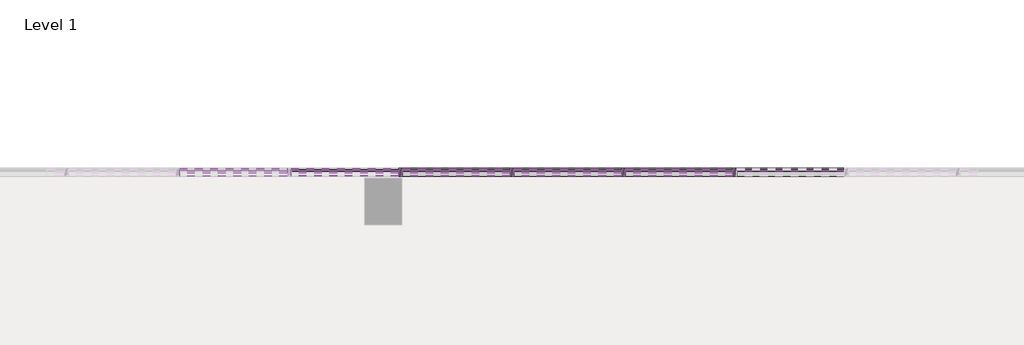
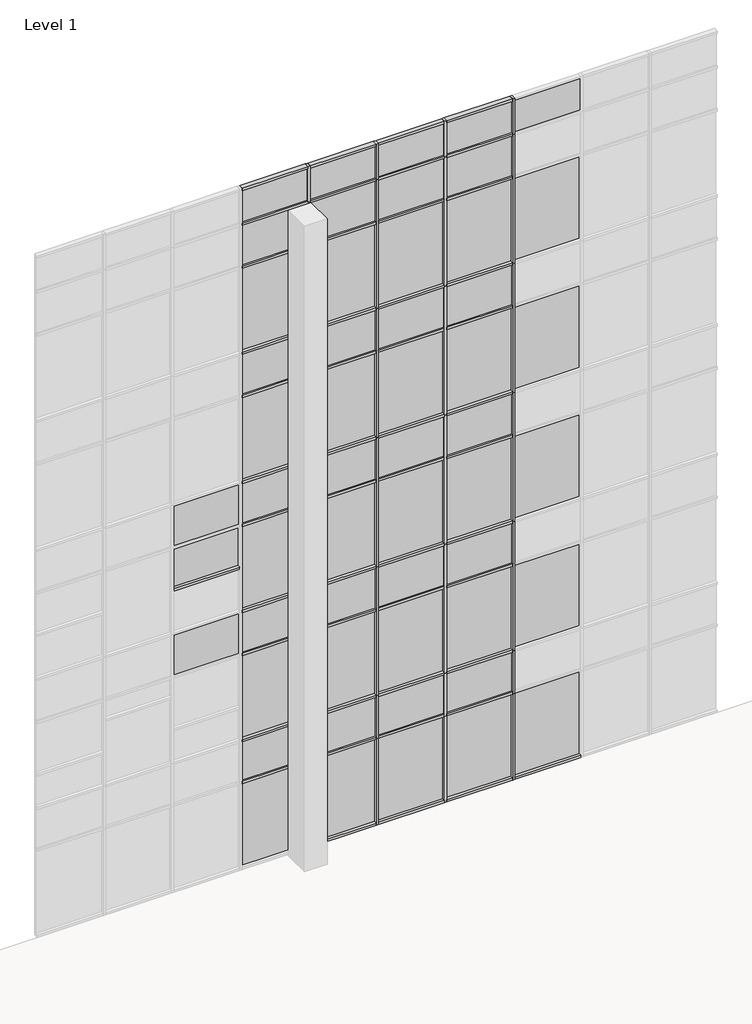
# One storey, part 12 of 23: 77 members, 53 plates.
"""IFC4 building model written with IfcOpenShell, lengths in millimetres."""

from ifc_helpers import new_model, si_unit, origin, place, context, project, spatial, transform, mapped, element, save
from components import member_2b49869a, member_f92b8aa2, member_810865a4, member_f0fea5a5, member_6d5c3e5e, member_9764dd38, system_panel_glazed_14c75400, system_panel_glazed_f9823347, system_panel_solid_5dfe6f83, system_panel_solid_e25e2004, system_panel_solid_b7551183

model = new_model("IFC4")

# Units and contexts
model_context = context("Model", 3, world=origin())
ifc_project = project(units=[si_unit("LENGTHUNIT", "METRE", prefix="MILLI")], contexts=[model_context])

# Site, building, storey
site = spatial("IfcSite", under=ifc_project)
building = spatial("IfcBuilding", under=site)
storey = spatial("IfcBuildingStorey", under=building, Name="Level 1", Elevation=0.0)

# Members
placement = place(None, origin())
member_shape = member_2b49869a(model_context)
element("IfcMember", 1, ObjectType="Rectangular Mullion : 2.5\" x 5\" rectangular", at=placement, inside=storey, context=model_context, shape_type="MappedRepresentation", body=[
    mapped(member_shape, transform((-50727.8373649, 10017.7896508, 2438.4), x_axis=(1.0, 0.0, 0.0), y_axis=(0.0, -1.0, 0.0), z_axis=(0.0, 0.0, -1.0))),
])
element("IfcMember", 2, ObjectType="Rectangular Mullion : 2.5\" x 5\" rectangular", at=placement, inside=storey, context=model_context, shape_type="MappedRepresentation", body=[
    mapped(member_shape, transform((-52556.6373649, 10017.7896508, 2438.4), x_axis=(1.0, 0.0, 0.0), y_axis=(0.0, -1.0, 0.0), z_axis=(0.0, 0.0, -1.0))),
])
element("IfcMember", 3, ObjectType="Rectangular Mullion : 2.5\" x 5\" rectangular", at=placement, inside=storey, context=model_context, shape_type="MappedRepresentation", body=[
    mapped(member_shape, transform((-54385.4373649, 10017.7896508, 2438.4), x_axis=(1.0, 0.0, 0.0), y_axis=(0.0, -1.0, 0.0), z_axis=(0.0, 0.0, -1.0))),
])
element("IfcMember", 4, ObjectType="Rectangular Mullion : 2.5\" x 5\" rectangular", at=placement, inside=storey, context=model_context, shape_type="MappedRepresentation", body=[
    mapped(member_shape, transform((-56214.2373649, 10017.7896508, 2438.4), x_axis=(1.0, 0.0, 0.0), y_axis=(0.0, -1.0, 0.0), z_axis=(0.0, 0.0, -1.0))),
])
member_2_shape = member_f92b8aa2(model_context)
element("IfcMember", 5, ObjectType="Rectangular Mullion : 2.5\" x 5\" rectangular", at=placement, inside=storey, context=model_context, shape_type="MappedRepresentation", body=[
    mapped(member_2_shape, transform((-50727.8373649, 10017.7896508, 18288.0), x_axis=(1.0, 0.0, 0.0), y_axis=(0.0, -1.0, 0.0), z_axis=(0.0, 0.0, -1.0))),
])
element("IfcMember", 6, ObjectType="Rectangular Mullion : 2.5\" x 5\" rectangular", at=placement, inside=storey, context=model_context, shape_type="MappedRepresentation", body=[
    mapped(member_2_shape, transform((-52556.6373649, 10017.7896508, 18288.0), x_axis=(1.0, 0.0, 0.0), y_axis=(0.0, -1.0, 0.0), z_axis=(0.0, 0.0, -1.0))),
])
element("IfcMember", 7, ObjectType="Rectangular Mullion : 2.5\" x 5\" rectangular", at=placement, inside=storey, context=model_context, shape_type="MappedRepresentation", body=[
    mapped(member_2_shape, transform((-54385.4373649, 10017.7896508, 18288.0), x_axis=(1.0, 0.0, 0.0), y_axis=(0.0, -1.0, 0.0), z_axis=(0.0, 0.0, -1.0))),
])
element("IfcMember", 8, ObjectType="Rectangular Mullion : 2.5\" x 5\" rectangular", at=placement, inside=storey, context=model_context, shape_type="MappedRepresentation", body=[
    mapped(member_2_shape, transform((-56214.2373649, 10017.7896508, 18288.0), x_axis=(1.0, 0.0, 0.0), y_axis=(0.0, -1.0, 0.0), z_axis=(0.0, 0.0, -1.0))),
])
member_3_shape = member_810865a4(model_context)
element("IfcMember", 9, ObjectType="Rectangular Mullion : 2.5\" x 5\" rectangular", at=placement, inside=storey, context=model_context, shape_type="MappedRepresentation", body=[
    mapped(member_3_shape, transform((-50727.8373649, 10017.7896508, 14630.4), x_axis=(1.0, 0.0, 0.0), y_axis=(0.0, -1.0, 0.0), z_axis=(0.0, 0.0, -1.0))),
])
element("IfcMember", 10, ObjectType="Rectangular Mullion : 2.5\" x 5\" rectangular", at=placement, inside=storey, context=model_context, shape_type="MappedRepresentation", body=[
    mapped(member_3_shape, transform((-50727.8373649, 10017.7896508, 10972.8), x_axis=(1.0, 0.0, 0.0), y_axis=(0.0, -1.0, 0.0), z_axis=(0.0, 0.0, -1.0))),
])
element("IfcMember", 11, ObjectType="Rectangular Mullion : 2.5\" x 5\" rectangular", at=placement, inside=storey, context=model_context, shape_type="MappedRepresentation", body=[
    mapped(member_3_shape, transform((-50727.8373649, 10017.7896508, 7315.2), x_axis=(1.0, 0.0, 0.0), y_axis=(0.0, -1.0, 0.0), z_axis=(0.0, 0.0, -1.0))),
])
element("IfcMember", 12, ObjectType="Rectangular Mullion : 2.5\" x 5\" rectangular", at=placement, inside=storey, context=model_context, shape_type="MappedRepresentation", body=[
    mapped(member_3_shape, transform((-50727.8373649, 10017.7896508, 3657.6), x_axis=(1.0, 0.0, 0.0), y_axis=(0.0, -1.0, 0.0), z_axis=(0.0, 0.0, -1.0))),
])
element("IfcMember", 13, ObjectType="Rectangular Mullion : 2.5\" x 5\" rectangular", at=placement, inside=storey, context=model_context, shape_type="MappedRepresentation", body=[
    mapped(member_3_shape, transform((-52556.6373649, 10017.7896508, 14630.4), x_axis=(1.0, 0.0, 0.0), y_axis=(0.0, -1.0, 0.0), z_axis=(0.0, 0.0, -1.0))),
])
element("IfcMember", 14, ObjectType="Rectangular Mullion : 2.5\" x 5\" rectangular", at=placement, inside=storey, context=model_context, shape_type="MappedRepresentation", body=[
    mapped(member_3_shape, transform((-52556.6373649, 10017.7896508, 10972.8), x_axis=(1.0, 0.0, 0.0), y_axis=(0.0, -1.0, 0.0), z_axis=(0.0, 0.0, -1.0))),
])
element("IfcMember", 15, ObjectType="Rectangular Mullion : 2.5\" x 5\" rectangular", at=placement, inside=storey, context=model_context, shape_type="MappedRepresentation", body=[
    mapped(member_3_shape, transform((-52556.6373649, 10017.7896508, 7315.2), x_axis=(1.0, 0.0, 0.0), y_axis=(0.0, -1.0, 0.0), z_axis=(0.0, 0.0, -1.0))),
])
element("IfcMember", 16, ObjectType="Rectangular Mullion : 2.5\" x 5\" rectangular", at=placement, inside=storey, context=model_context, shape_type="MappedRepresentation", body=[
    mapped(member_3_shape, transform((-52556.6373649, 10017.7896508, 3657.6), x_axis=(1.0, 0.0, 0.0), y_axis=(0.0, -1.0, 0.0), z_axis=(0.0, 0.0, -1.0))),
])
element("IfcMember", 17, ObjectType="Rectangular Mullion : 2.5\" x 5\" rectangular", at=placement, inside=storey, context=model_context, shape_type="MappedRepresentation", body=[
    mapped(member_3_shape, transform((-54385.4373649, 10017.7896508, 14630.4), x_axis=(1.0, 0.0, 0.0), y_axis=(0.0, -1.0, 0.0), z_axis=(0.0, 0.0, -1.0))),
])
element("IfcMember", 18, ObjectType="Rectangular Mullion : 2.5\" x 5\" rectangular", at=placement, inside=storey, context=model_context, shape_type="MappedRepresentation", body=[
    mapped(member_3_shape, transform((-54385.4373649, 10017.7896508, 10972.8), x_axis=(1.0, 0.0, 0.0), y_axis=(0.0, -1.0, 0.0), z_axis=(0.0, 0.0, -1.0))),
])
element("IfcMember", 19, ObjectType="Rectangular Mullion : 2.5\" x 5\" rectangular", at=placement, inside=storey, context=model_context, shape_type="MappedRepresentation", body=[
    mapped(member_3_shape, transform((-54385.4373649, 10017.7896508, 7315.2), x_axis=(1.0, 0.0, 0.0), y_axis=(0.0, -1.0, 0.0), z_axis=(0.0, 0.0, -1.0))),
])
element("IfcMember", 20, ObjectType="Rectangular Mullion : 2.5\" x 5\" rectangular", at=placement, inside=storey, context=model_context, shape_type="MappedRepresentation", body=[
    mapped(member_3_shape, transform((-54385.4373649, 10017.7896508, 3657.6), x_axis=(1.0, 0.0, 0.0), y_axis=(0.0, -1.0, 0.0), z_axis=(0.0, 0.0, -1.0))),
])
element("IfcMember", 21, ObjectType="Rectangular Mullion : 2.5\" x 5\" rectangular", at=placement, inside=storey, context=model_context, shape_type="MappedRepresentation", body=[
    mapped(member_3_shape, transform((-56214.2373649, 10017.7896508, 14630.4), x_axis=(1.0, 0.0, 0.0), y_axis=(0.0, -1.0, 0.0), z_axis=(0.0, 0.0, -1.0))),
])
element("IfcMember", 22, ObjectType="Rectangular Mullion : 2.5\" x 5\" rectangular", at=placement, inside=storey, context=model_context, shape_type="MappedRepresentation", body=[
    mapped(member_3_shape, transform((-56214.2373649, 10017.7896508, 10972.8), x_axis=(1.0, 0.0, 0.0), y_axis=(0.0, -1.0, 0.0), z_axis=(0.0, 0.0, -1.0))),
])
element("IfcMember", 23, ObjectType="Rectangular Mullion : 2.5\" x 5\" rectangular", at=placement, inside=storey, context=model_context, shape_type="MappedRepresentation", body=[
    mapped(member_3_shape, transform((-56214.2373649, 10017.7896508, 7315.2), x_axis=(1.0, 0.0, 0.0), y_axis=(0.0, -1.0, 0.0), z_axis=(0.0, 0.0, -1.0))),
])
element("IfcMember", 24, ObjectType="Rectangular Mullion : 2.5\" x 5\" rectangular", at=placement, inside=storey, context=model_context, shape_type="MappedRepresentation", body=[
    mapped(member_3_shape, transform((-56214.2373649, 10017.7896508, 3657.6), x_axis=(1.0, 0.0, 0.0), y_axis=(0.0, -1.0, 0.0), z_axis=(0.0, 0.0, -1.0))),
])
member_4_shape = member_f0fea5a5(model_context)
element("IfcMember", 25, ObjectType="Rectangular Mullion : 2.5\" x 5\" rectangular", at=placement, inside=storey, context=model_context, shape_type="MappedRepresentation", body=[
    mapped(member_4_shape, transform((-50727.8373649, 10017.7896508, 0.0), x_axis=(1.0, 0.0, 0.0), y_axis=(0.0, -1.0, 0.0), z_axis=(0.0, 0.0, -1.0))),
])
element("IfcMember", 26, ObjectType="Rectangular Mullion : 2.5\" x 5\" rectangular", at=placement, inside=storey, context=model_context, shape_type="MappedRepresentation", body=[
    mapped(member_4_shape, transform((-56214.2373649, 10017.7896508, 0.0), x_axis=(1.0, 0.0, 0.0), y_axis=(0.0, -1.0, 0.0), z_axis=(0.0, 0.0, -1.0))),
])
element("IfcMember", 27, ObjectType="Rectangular Mullion : 2.5\" x 5\" rectangular", at=placement, inside=storey, context=model_context, shape_type="MappedRepresentation", body=[
    mapped(member_4_shape, transform((-52556.6373649, 10017.7896508, 0.0), x_axis=(1.0, 0.0, 0.0), y_axis=(0.0, -1.0, 0.0), z_axis=(0.0, 0.0, -1.0))),
])
element("IfcMember", 28, ObjectType="Rectangular Mullion : 2.5\" x 5\" rectangular", at=placement, inside=storey, context=model_context, shape_type="MappedRepresentation", body=[
    mapped(member_4_shape, transform((-54385.4373649, 10017.7896508, 0.0), x_axis=(1.0, 0.0, 0.0), y_axis=(0.0, -1.0, 0.0), z_axis=(0.0, 0.0, -1.0))),
])
member_5_shape = member_6d5c3e5e(model_context)
element("IfcMember", 29, ObjectType="Rectangular Mullion : 2.5\" x 5\" rectangular", at=placement, inside=storey, context=model_context, shape_type="MappedRepresentation", body=[
    mapped(member_5_shape, transform((-56245.9873649, 10017.7896508, 19304.0), x_axis=(0.0, 0.0, 1.0), y_axis=(0.0, -1.0, 0.0), z_axis=(1.0, 0.0, 0.0))),
])
element("IfcMember", 30, ObjectType="Rectangular Mullion : 2.5\" x 5\" rectangular", at=placement, inside=storey, context=model_context, shape_type="MappedRepresentation", body=[
    mapped(member_5_shape, transform((-50759.5873649, 10017.7896508, 19304.0), x_axis=(0.0, 0.0, 1.0), y_axis=(0.0, -1.0, 0.0), z_axis=(1.0, 0.0, 0.0))),
])
element("IfcMember", 31, ObjectType="Rectangular Mullion : 2.5\" x 5\" rectangular", at=placement, inside=storey, context=model_context, shape_type="MappedRepresentation", body=[
    mapped(member_5_shape, transform((-52588.3873649, 10017.7896508, 19304.0), x_axis=(0.0, 0.0, 1.0), y_axis=(0.0, -1.0, 0.0), z_axis=(1.0, 0.0, 0.0))),
])
element("IfcMember", 32, ObjectType="Rectangular Mullion : 2.5\" x 5\" rectangular", at=placement, inside=storey, context=model_context, shape_type="MappedRepresentation", body=[
    mapped(member_5_shape, transform((-54417.1873649, 10017.7896508, 19304.0), x_axis=(0.0, 0.0, 1.0), y_axis=(0.0, -1.0, 0.0), z_axis=(1.0, 0.0, 0.0))),
])
member_6_shape = member_9764dd38(model_context)
element("IfcMember", 33, ObjectType="Rectangular Mullion : 2.5\" x 5\" rectangular", at=placement, inside=storey, context=model_context, shape_type="MappedRepresentation", body=[
    mapped(member_6_shape, transform((-50759.5873649, 10017.7896508, 17068.8), x_axis=(0.0, 0.0, 1.0), y_axis=(0.0, -1.0, 0.0), z_axis=(1.0, 0.0, 0.0))),
])
element("IfcMember", 34, ObjectType="Rectangular Mullion : 2.5\" x 5\" rectangular", at=placement, inside=storey, context=model_context, shape_type="MappedRepresentation", body=[
    mapped(member_6_shape, transform((-52588.3873649, 10017.7896508, 17068.8), x_axis=(0.0, 0.0, 1.0), y_axis=(0.0, -1.0, 0.0), z_axis=(1.0, 0.0, 0.0))),
])
element("IfcMember", 35, ObjectType="Rectangular Mullion : 2.5\" x 5\" rectangular", at=placement, inside=storey, context=model_context, shape_type="MappedRepresentation", body=[
    mapped(member_6_shape, transform((-54417.1873649, 10017.7896508, 17068.8), x_axis=(0.0, 0.0, 1.0), y_axis=(0.0, -1.0, 0.0), z_axis=(1.0, 0.0, 0.0))),
])
element("IfcMember", 36, ObjectType="Rectangular Mullion : 2.5\" x 5\" rectangular", at=placement, inside=storey, context=model_context, shape_type="MappedRepresentation", body=[
    mapped(member_6_shape, transform((-56245.9873649, 10017.7896508, 17068.8), x_axis=(0.0, 0.0, 1.0), y_axis=(0.0, -1.0, 0.0), z_axis=(1.0, 0.0, 0.0))),
])
element("IfcMember", 37, ObjectType="Rectangular Mullion : 2.5\" x 5\" rectangular", at=placement, inside=storey, context=model_context, shape_type="MappedRepresentation", body=[
    mapped(member_6_shape, transform((-50759.5873649, 10017.7896508, 13411.2), x_axis=(0.0, 0.0, 1.0), y_axis=(0.0, -1.0, 0.0), z_axis=(1.0, 0.0, 0.0))),
])
element("IfcMember", 38, ObjectType="Rectangular Mullion : 2.5\" x 5\" rectangular", at=placement, inside=storey, context=model_context, shape_type="MappedRepresentation", body=[
    mapped(member_6_shape, transform((-52588.3873649, 10017.7896508, 13411.2), x_axis=(0.0, 0.0, 1.0), y_axis=(0.0, -1.0, 0.0), z_axis=(1.0, 0.0, 0.0))),
])
element("IfcMember", 39, ObjectType="Rectangular Mullion : 2.5\" x 5\" rectangular", at=placement, inside=storey, context=model_context, shape_type="MappedRepresentation", body=[
    mapped(member_6_shape, transform((-54417.1873649, 10017.7896508, 13411.2), x_axis=(0.0, 0.0, 1.0), y_axis=(0.0, -1.0, 0.0), z_axis=(1.0, 0.0, 0.0))),
])
element("IfcMember", 40, ObjectType="Rectangular Mullion : 2.5\" x 5\" rectangular", at=placement, inside=storey, context=model_context, shape_type="MappedRepresentation", body=[
    mapped(member_6_shape, transform((-56245.9873649, 10017.7896508, 13411.2), x_axis=(0.0, 0.0, 1.0), y_axis=(0.0, -1.0, 0.0), z_axis=(1.0, 0.0, 0.0))),
])
element("IfcMember", 41, ObjectType="Rectangular Mullion : 2.5\" x 5\" rectangular", at=placement, inside=storey, context=model_context, shape_type="MappedRepresentation", body=[
    mapped(member_6_shape, transform((-50759.5873649, 10017.7896508, 9753.6), x_axis=(0.0, 0.0, 1.0), y_axis=(0.0, -1.0, 0.0), z_axis=(1.0, 0.0, 0.0))),
])
element("IfcMember", 42, ObjectType="Rectangular Mullion : 2.5\" x 5\" rectangular", at=placement, inside=storey, context=model_context, shape_type="MappedRepresentation", body=[
    mapped(member_6_shape, transform((-52588.3873649, 10017.7896508, 9753.6), x_axis=(0.0, 0.0, 1.0), y_axis=(0.0, -1.0, 0.0), z_axis=(1.0, 0.0, 0.0))),
])
element("IfcMember", 43, ObjectType="Rectangular Mullion : 2.5\" x 5\" rectangular", at=placement, inside=storey, context=model_context, shape_type="MappedRepresentation", body=[
    mapped(member_6_shape, transform((-54417.1873649, 10017.7896508, 9753.6), x_axis=(0.0, 0.0, 1.0), y_axis=(0.0, -1.0, 0.0), z_axis=(1.0, 0.0, 0.0))),
])
element("IfcMember", 44, ObjectType="Rectangular Mullion : 2.5\" x 5\" rectangular", at=placement, inside=storey, context=model_context, shape_type="MappedRepresentation", body=[
    mapped(member_6_shape, transform((-56245.9873649, 10017.7896508, 9753.6), x_axis=(0.0, 0.0, 1.0), y_axis=(0.0, -1.0, 0.0), z_axis=(1.0, 0.0, 0.0))),
])
element("IfcMember", 45, ObjectType="Rectangular Mullion : 2.5\" x 5\" rectangular", at=placement, inside=storey, context=model_context, shape_type="MappedRepresentation", body=[
    mapped(member_6_shape, transform((-50759.5873649, 10017.7896508, 6096.0), x_axis=(0.0, 0.0, 1.0), y_axis=(0.0, -1.0, 0.0), z_axis=(1.0, 0.0, 0.0))),
])
element("IfcMember", 46, ObjectType="Rectangular Mullion : 2.5\" x 5\" rectangular", at=placement, inside=storey, context=model_context, shape_type="MappedRepresentation", body=[
    mapped(member_6_shape, transform((-52588.3873649, 10017.7896508, 6096.0), x_axis=(0.0, 0.0, 1.0), y_axis=(0.0, -1.0, 0.0), z_axis=(1.0, 0.0, 0.0))),
])
element("IfcMember", 47, ObjectType="Rectangular Mullion : 2.5\" x 5\" rectangular", at=placement, inside=storey, context=model_context, shape_type="MappedRepresentation", body=[
    mapped(member_6_shape, transform((-54417.1873649, 10017.7896508, 6096.0), x_axis=(0.0, 0.0, 1.0), y_axis=(0.0, -1.0, 0.0), z_axis=(1.0, 0.0, 0.0))),
])
element("IfcMember", 48, ObjectType="Rectangular Mullion : 2.5\" x 5\" rectangular", at=placement, inside=storey, context=model_context, shape_type="MappedRepresentation", body=[
    mapped(member_6_shape, transform((-56245.9873649, 10017.7896508, 6096.0), x_axis=(0.0, 0.0, 1.0), y_axis=(0.0, -1.0, 0.0), z_axis=(1.0, 0.0, 0.0))),
])
element("IfcMember", 49, ObjectType="Rectangular Mullion : 2.5\" x 5\" rectangular", at=placement, inside=storey, context=model_context, shape_type="MappedRepresentation", body=[
    mapped(member_6_shape, transform((-50759.5873649, 10017.7896508, 2470.15), x_axis=(0.0, 0.0, 1.0), y_axis=(0.0, -1.0, 0.0), z_axis=(1.0, 0.0, 0.0))),
])
element("IfcMember", 50, ObjectType="Rectangular Mullion : 2.5\" x 5\" rectangular", at=placement, inside=storey, context=model_context, shape_type="MappedRepresentation", body=[
    mapped(member_6_shape, transform((-52588.3873649, 10017.7896508, 2470.15), x_axis=(0.0, 0.0, 1.0), y_axis=(0.0, -1.0, 0.0), z_axis=(1.0, 0.0, 0.0))),
])
element("IfcMember", 51, ObjectType="Rectangular Mullion : 2.5\" x 5\" rectangular", at=placement, inside=storey, context=model_context, shape_type="MappedRepresentation", body=[
    mapped(member_6_shape, transform((-54417.1873649, 10017.7896508, 2470.15), x_axis=(0.0, 0.0, 1.0), y_axis=(0.0, -1.0, 0.0), z_axis=(1.0, 0.0, 0.0))),
])
element("IfcMember", 52, ObjectType="Rectangular Mullion : 2.5\" x 5\" rectangular", at=placement, inside=storey, context=model_context, shape_type="MappedRepresentation", body=[
    mapped(member_6_shape, transform((-56245.9873649, 10017.7896508, 2470.15), x_axis=(0.0, 0.0, 1.0), y_axis=(0.0, -1.0, 0.0), z_axis=(1.0, 0.0, 0.0))),
])
element("IfcMember", 53, ObjectType="Rectangular Mullion : 2.5\" x 5\" rectangular", at=placement, inside=storey, context=model_context, shape_type="MappedRepresentation", body=[
    mapped(member_6_shape, transform((-58074.7873649, 10017.7896508, 8566.15), x_axis=(0.0, 0.0, 1.0), y_axis=(0.0, -1.0, 0.0), z_axis=(1.0, 0.0, 0.0))),
])
element("IfcMember", 54, ObjectType="Rectangular Mullion : 2.5\" x 5\" rectangular", at=placement, inside=storey, context=model_context, shape_type="MappedRepresentation", body=[
    mapped(member_5_shape, transform((-50696.0873649, 10017.7896508, 0.0), x_axis=(0.0, 0.0, -1.0), y_axis=(0.0, -1.0, 0.0), z_axis=(-1.0, 0.0, 0.0))),
])
element("IfcMember", 55, ObjectType="Rectangular Mullion : 2.5\" x 5\" rectangular", at=placement, inside=storey, context=model_context, shape_type="MappedRepresentation", body=[
    mapped(member_5_shape, transform((-52524.8873649, 10017.7896508, 0.0), x_axis=(0.0, 0.0, -1.0), y_axis=(0.0, -1.0, 0.0), z_axis=(-1.0, 0.0, 0.0))),
])
element("IfcMember", 56, ObjectType="Rectangular Mullion : 2.5\" x 5\" rectangular", at=placement, inside=storey, context=model_context, shape_type="MappedRepresentation", body=[
    mapped(member_5_shape, transform((-54353.6873649, 10017.7896508, 0.0), x_axis=(0.0, 0.0, -1.0), y_axis=(0.0, -1.0, 0.0), z_axis=(-1.0, 0.0, 0.0))),
])
element("IfcMember", 57, ObjectType="Rectangular Mullion : 2.5\" x 5\" rectangular", at=placement, inside=storey, context=model_context, shape_type="MappedRepresentation", body=[
    mapped(member_5_shape, transform((-56182.4873649, 10017.7896508, 0.0), x_axis=(0.0, 0.0, -1.0), y_axis=(0.0, -1.0, 0.0), z_axis=(-1.0, 0.0, 0.0))),
])
element("IfcMember", 58, ObjectType="Rectangular Mullion : 2.5\" x 5\" rectangular", at=placement, inside=storey, context=model_context, shape_type="MappedRepresentation", body=[
    mapped(member_6_shape, transform((-50759.5873649, 10017.7896508, 10972.8), x_axis=(0.0, 0.0, 1.0), y_axis=(0.0, -1.0, 0.0), z_axis=(1.0, 0.0, 0.0))),
])
element("IfcMember", 59, ObjectType="Rectangular Mullion : 2.5\" x 5\" rectangular", at=placement, inside=storey, context=model_context, shape_type="MappedRepresentation", body=[
    mapped(member_6_shape, transform((-52588.3873649, 10017.7896508, 10972.8), x_axis=(0.0, 0.0, 1.0), y_axis=(0.0, -1.0, 0.0), z_axis=(1.0, 0.0, 0.0))),
])
element("IfcMember", 60, ObjectType="Rectangular Mullion : 2.5\" x 5\" rectangular", at=placement, inside=storey, context=model_context, shape_type="MappedRepresentation", body=[
    mapped(member_6_shape, transform((-54417.1873649, 10017.7896508, 10972.8), x_axis=(0.0, 0.0, 1.0), y_axis=(0.0, -1.0, 0.0), z_axis=(1.0, 0.0, 0.0))),
])
element("IfcMember", 61, ObjectType="Rectangular Mullion : 2.5\" x 5\" rectangular", at=placement, inside=storey, context=model_context, shape_type="MappedRepresentation", body=[
    mapped(member_6_shape, transform((-56245.9873649, 10017.7896508, 10972.8), x_axis=(0.0, 0.0, 1.0), y_axis=(0.0, -1.0, 0.0), z_axis=(1.0, 0.0, 0.0))),
])
element("IfcMember", 62, ObjectType="Rectangular Mullion : 2.5\" x 5\" rectangular", at=placement, inside=storey, context=model_context, shape_type="MappedRepresentation", body=[
    mapped(member_6_shape, transform((-50759.5873649, 10017.7896508, 7315.2), x_axis=(0.0, 0.0, 1.0), y_axis=(0.0, -1.0, 0.0), z_axis=(1.0, 0.0, 0.0))),
])
element("IfcMember", 63, ObjectType="Rectangular Mullion : 2.5\" x 5\" rectangular", at=placement, inside=storey, context=model_context, shape_type="MappedRepresentation", body=[
    mapped(member_6_shape, transform((-52588.3873649, 10017.7896508, 7315.2), x_axis=(0.0, 0.0, 1.0), y_axis=(0.0, -1.0, 0.0), z_axis=(1.0, 0.0, 0.0))),
])
element("IfcMember", 64, ObjectType="Rectangular Mullion : 2.5\" x 5\" rectangular", at=placement, inside=storey, context=model_context, shape_type="MappedRepresentation", body=[
    mapped(member_6_shape, transform((-54417.1873649, 10017.7896508, 7315.2), x_axis=(0.0, 0.0, 1.0), y_axis=(0.0, -1.0, 0.0), z_axis=(1.0, 0.0, 0.0))),
])
element("IfcMember", 65, ObjectType="Rectangular Mullion : 2.5\" x 5\" rectangular", at=placement, inside=storey, context=model_context, shape_type="MappedRepresentation", body=[
    mapped(member_6_shape, transform((-56245.9873649, 10017.7896508, 7315.2), x_axis=(0.0, 0.0, 1.0), y_axis=(0.0, -1.0, 0.0), z_axis=(1.0, 0.0, 0.0))),
])
element("IfcMember", 66, ObjectType="Rectangular Mullion : 2.5\" x 5\" rectangular", at=placement, inside=storey, context=model_context, shape_type="MappedRepresentation", body=[
    mapped(member_6_shape, transform((-50759.5873649, 10017.7896508, 18288.0), x_axis=(0.0, 0.0, 1.0), y_axis=(0.0, -1.0, 0.0), z_axis=(1.0, 0.0, 0.0))),
])
element("IfcMember", 67, ObjectType="Rectangular Mullion : 2.5\" x 5\" rectangular", at=placement, inside=storey, context=model_context, shape_type="MappedRepresentation", body=[
    mapped(member_6_shape, transform((-52588.3873649, 10017.7896508, 18288.0), x_axis=(0.0, 0.0, 1.0), y_axis=(0.0, -1.0, 0.0), z_axis=(1.0, 0.0, 0.0))),
])
element("IfcMember", 68, ObjectType="Rectangular Mullion : 2.5\" x 5\" rectangular", at=placement, inside=storey, context=model_context, shape_type="MappedRepresentation", body=[
    mapped(member_6_shape, transform((-54417.1873649, 10017.7896508, 18288.0), x_axis=(0.0, 0.0, 1.0), y_axis=(0.0, -1.0, 0.0), z_axis=(1.0, 0.0, 0.0))),
])
element("IfcMember", 69, ObjectType="Rectangular Mullion : 2.5\" x 5\" rectangular", at=placement, inside=storey, context=model_context, shape_type="MappedRepresentation", body=[
    mapped(member_6_shape, transform((-56245.9873649, 10017.7896508, 18288.0), x_axis=(0.0, 0.0, 1.0), y_axis=(0.0, -1.0, 0.0), z_axis=(1.0, 0.0, 0.0))),
])
element("IfcMember", 70, ObjectType="Rectangular Mullion : 2.5\" x 5\" rectangular", at=placement, inside=storey, context=model_context, shape_type="MappedRepresentation", body=[
    mapped(member_6_shape, transform((-50759.5873649, 10017.7896508, 14630.4), x_axis=(0.0, 0.0, 1.0), y_axis=(0.0, -1.0, 0.0), z_axis=(1.0, 0.0, 0.0))),
])
element("IfcMember", 71, ObjectType="Rectangular Mullion : 2.5\" x 5\" rectangular", at=placement, inside=storey, context=model_context, shape_type="MappedRepresentation", body=[
    mapped(member_6_shape, transform((-52588.3873649, 10017.7896508, 14630.4), x_axis=(0.0, 0.0, 1.0), y_axis=(0.0, -1.0, 0.0), z_axis=(1.0, 0.0, 0.0))),
])
element("IfcMember", 72, ObjectType="Rectangular Mullion : 2.5\" x 5\" rectangular", at=placement, inside=storey, context=model_context, shape_type="MappedRepresentation", body=[
    mapped(member_6_shape, transform((-54417.1873649, 10017.7896508, 14630.4), x_axis=(0.0, 0.0, 1.0), y_axis=(0.0, -1.0, 0.0), z_axis=(1.0, 0.0, 0.0))),
])
element("IfcMember", 73, ObjectType="Rectangular Mullion : 2.5\" x 5\" rectangular", at=placement, inside=storey, context=model_context, shape_type="MappedRepresentation", body=[
    mapped(member_6_shape, transform((-56245.9873649, 10017.7896508, 14630.4), x_axis=(0.0, 0.0, 1.0), y_axis=(0.0, -1.0, 0.0), z_axis=(1.0, 0.0, 0.0))),
])
element("IfcMember", 74, ObjectType="Rectangular Mullion : 2.5\" x 5\" rectangular", at=placement, inside=storey, context=model_context, shape_type="MappedRepresentation", body=[
    mapped(member_6_shape, transform((-56245.9873649, 10017.7896508, 3657.6), x_axis=(0.0, 0.0, 1.0), y_axis=(0.0, -1.0, 0.0), z_axis=(1.0, 0.0, 0.0))),
])
element("IfcMember", 75, ObjectType="Rectangular Mullion : 2.5\" x 5\" rectangular", at=placement, inside=storey, context=model_context, shape_type="MappedRepresentation", body=[
    mapped(member_6_shape, transform((-52588.3873649, 10017.7896508, 3657.6), x_axis=(0.0, 0.0, 1.0), y_axis=(0.0, -1.0, 0.0), z_axis=(1.0, 0.0, 0.0))),
])
element("IfcMember", 76, ObjectType="Rectangular Mullion : 2.5\" x 5\" rectangular", at=placement, inside=storey, context=model_context, shape_type="MappedRepresentation", body=[
    mapped(member_6_shape, transform((-50759.5873649, 10017.7896508, 3657.6), x_axis=(0.0, 0.0, 1.0), y_axis=(0.0, -1.0, 0.0), z_axis=(1.0, 0.0, 0.0))),
])
element("IfcMember", 77, ObjectType="Rectangular Mullion : 2.5\" x 5\" rectangular", at=placement, inside=storey, context=model_context, shape_type="MappedRepresentation", body=[
    mapped(member_6_shape, transform((-54417.1873649, 10017.7896508, 3657.6), x_axis=(0.0, 0.0, 1.0), y_axis=(0.0, -1.0, 0.0), z_axis=(1.0, 0.0, 0.0))),
])

# Plates
system_panel_glazed_shape = system_panel_glazed_14c75400(model_context)
element("IfcPlate", 78, ObjectType="System Panel : Glazed", at=placement, inside=storey, context=model_context, shape_type="MappedRepresentation", body=[
    mapped(system_panel_glazed_shape, transform((-49813.4373649, 10017.7896508, 14662.15), x_axis=(1.0, 0.0, 0.0), y_axis=(0.0, 1.0, 0.0), z_axis=(0.0, 0.0, 1.0))),
])
element("IfcPlate", 79, ObjectType="System Panel : Glazed", at=placement, inside=storey, context=model_context, shape_type="MappedRepresentation", body=[
    mapped(system_panel_glazed_shape, transform((-51642.2373649, 10017.7896508, 14662.15), x_axis=(1.0, 0.0, 0.0), y_axis=(0.0, 1.0, 0.0), z_axis=(0.0, 0.0, 1.0))),
])
element("IfcPlate", 80, ObjectType="System Panel : Glazed", at=placement, inside=storey, context=model_context, shape_type="MappedRepresentation", body=[
    mapped(system_panel_glazed_shape, transform((-53471.0373649, 10017.7896508, 14662.15), x_axis=(1.0, 0.0, 0.0), y_axis=(0.0, 1.0, 0.0), z_axis=(0.0, 0.0, 1.0))),
])
element("IfcPlate", 81, ObjectType="System Panel : Glazed", at=placement, inside=storey, context=model_context, shape_type="MappedRepresentation", body=[
    mapped(system_panel_glazed_shape, transform((-55299.8373649, 10017.7896508, 14662.15), x_axis=(1.0, 0.0, 0.0), y_axis=(0.0, 1.0, 0.0), z_axis=(0.0, 0.0, 1.0))),
])
element("IfcPlate", 82, ObjectType="System Panel : Glazed", at=placement, inside=storey, context=model_context, shape_type="MappedRepresentation", body=[
    mapped(system_panel_glazed_shape, transform((-57128.6373649, 10017.7896508, 14662.15), x_axis=(1.0, 0.0, 0.0), y_axis=(0.0, 1.0, 0.0), z_axis=(0.0, 0.0, 1.0))),
])
element("IfcPlate", 83, ObjectType="System Panel : Glazed", at=placement, inside=storey, context=model_context, shape_type="MappedRepresentation", body=[
    mapped(system_panel_glazed_shape, transform((-49813.4373649, 10017.7896508, 11004.55), x_axis=(1.0, 0.0, 0.0), y_axis=(0.0, 1.0, 0.0), z_axis=(0.0, 0.0, 1.0))),
])
element("IfcPlate", 84, ObjectType="System Panel : Glazed", at=placement, inside=storey, context=model_context, shape_type="MappedRepresentation", body=[
    mapped(system_panel_glazed_shape, transform((-51642.2373649, 10017.7896508, 11004.55), x_axis=(1.0, 0.0, 0.0), y_axis=(0.0, 1.0, 0.0), z_axis=(0.0, 0.0, 1.0))),
])
element("IfcPlate", 85, ObjectType="System Panel : Glazed", at=placement, inside=storey, context=model_context, shape_type="MappedRepresentation", body=[
    mapped(system_panel_glazed_shape, transform((-53471.0373649, 10017.7896508, 11004.55), x_axis=(1.0, 0.0, 0.0), y_axis=(0.0, 1.0, 0.0), z_axis=(0.0, 0.0, 1.0))),
])
element("IfcPlate", 86, ObjectType="System Panel : Glazed", at=placement, inside=storey, context=model_context, shape_type="MappedRepresentation", body=[
    mapped(system_panel_glazed_shape, transform((-55299.8373649, 10017.7896508, 11004.55), x_axis=(1.0, 0.0, 0.0), y_axis=(0.0, 1.0, 0.0), z_axis=(0.0, 0.0, 1.0))),
])
element("IfcPlate", 87, ObjectType="System Panel : Glazed", at=placement, inside=storey, context=model_context, shape_type="MappedRepresentation", body=[
    mapped(system_panel_glazed_shape, transform((-57128.6373649, 10017.7896508, 11004.55), x_axis=(1.0, 0.0, 0.0), y_axis=(0.0, 1.0, 0.0), z_axis=(0.0, 0.0, 1.0))),
])
element("IfcPlate", 88, ObjectType="System Panel : Glazed", at=placement, inside=storey, context=model_context, shape_type="MappedRepresentation", body=[
    mapped(system_panel_glazed_shape, transform((-49813.4373649, 10017.7896508, 7346.95), x_axis=(1.0, 0.0, 0.0), y_axis=(0.0, 1.0, 0.0), z_axis=(0.0, 0.0, 1.0))),
])
element("IfcPlate", 89, ObjectType="System Panel : Glazed", at=placement, inside=storey, context=model_context, shape_type="MappedRepresentation", body=[
    mapped(system_panel_glazed_shape, transform((-51642.2373649, 10017.7896508, 7346.95), x_axis=(1.0, 0.0, 0.0), y_axis=(0.0, 1.0, 0.0), z_axis=(0.0, 0.0, 1.0))),
])
element("IfcPlate", 90, ObjectType="System Panel : Glazed", at=placement, inside=storey, context=model_context, shape_type="MappedRepresentation", body=[
    mapped(system_panel_glazed_shape, transform((-53471.0373649, 10017.7896508, 7346.95), x_axis=(1.0, 0.0, 0.0), y_axis=(0.0, 1.0, 0.0), z_axis=(0.0, 0.0, 1.0))),
])
element("IfcPlate", 91, ObjectType="System Panel : Glazed", at=placement, inside=storey, context=model_context, shape_type="MappedRepresentation", body=[
    mapped(system_panel_glazed_shape, transform((-55299.8373649, 10017.7896508, 7346.95), x_axis=(1.0, 0.0, 0.0), y_axis=(0.0, 1.0, 0.0), z_axis=(0.0, 0.0, 1.0))),
])
element("IfcPlate", 92, ObjectType="System Panel : Glazed", at=placement, inside=storey, context=model_context, shape_type="MappedRepresentation", body=[
    mapped(system_panel_glazed_shape, transform((-57128.6373649, 10017.7896508, 7346.95), x_axis=(1.0, 0.0, 0.0), y_axis=(0.0, 1.0, 0.0), z_axis=(0.0, 0.0, 1.0))),
])
element("IfcPlate", 93, ObjectType="System Panel : Glazed", at=placement, inside=storey, context=model_context, shape_type="MappedRepresentation", body=[
    mapped(system_panel_glazed_shape, transform((-49813.4373649, 10017.7896508, 3689.35), x_axis=(1.0, 0.0, 0.0), y_axis=(0.0, 1.0, 0.0), z_axis=(0.0, 0.0, 1.0))),
])
element("IfcPlate", 94, ObjectType="System Panel : Glazed", at=placement, inside=storey, context=model_context, shape_type="MappedRepresentation", body=[
    mapped(system_panel_glazed_shape, transform((-51642.2373649, 10017.7896508, 3689.35), x_axis=(1.0, 0.0, 0.0), y_axis=(0.0, 1.0, 0.0), z_axis=(0.0, 0.0, 1.0))),
])
element("IfcPlate", 95, ObjectType="System Panel : Glazed", at=placement, inside=storey, context=model_context, shape_type="MappedRepresentation", body=[
    mapped(system_panel_glazed_shape, transform((-53471.0373649, 10017.7896508, 3689.35), x_axis=(1.0, 0.0, 0.0), y_axis=(0.0, 1.0, 0.0), z_axis=(0.0, 0.0, 1.0))),
])
element("IfcPlate", 96, ObjectType="System Panel : Glazed", at=placement, inside=storey, context=model_context, shape_type="MappedRepresentation", body=[
    mapped(system_panel_glazed_shape, transform((-55299.8373649, 10017.7896508, 3689.35), x_axis=(1.0, 0.0, 0.0), y_axis=(0.0, 1.0, 0.0), z_axis=(0.0, 0.0, 1.0))),
])
element("IfcPlate", 97, ObjectType="System Panel : Glazed", at=placement, inside=storey, context=model_context, shape_type="MappedRepresentation", body=[
    mapped(system_panel_glazed_shape, transform((-57128.6373649, 10017.7896508, 3689.35), x_axis=(1.0, 0.0, 0.0), y_axis=(0.0, 1.0, 0.0), z_axis=(0.0, 0.0, 1.0))),
])
element("IfcPlate", 98, ObjectType="System Panel : Glazed", at=placement, inside=storey, context=model_context, shape_type="MappedRepresentation", body=[
    mapped(system_panel_glazed_shape, transform((-49813.4373649, 10017.7896508, 63.5), x_axis=(1.0, 0.0, 0.0), y_axis=(0.0, 1.0, 0.0), z_axis=(0.0, 0.0, 1.0))),
])
element("IfcPlate", 99, ObjectType="System Panel : Glazed", at=placement, inside=storey, context=model_context, shape_type="MappedRepresentation", body=[
    mapped(system_panel_glazed_shape, transform((-51642.2373649, 10017.7896508, 63.5), x_axis=(1.0, 0.0, 0.0), y_axis=(0.0, 1.0, 0.0), z_axis=(0.0, 0.0, 1.0))),
])
element("IfcPlate", 100, ObjectType="System Panel : Glazed", at=placement, inside=storey, context=model_context, shape_type="MappedRepresentation", body=[
    mapped(system_panel_glazed_shape, transform((-53471.0373649, 10017.7896508, 63.5), x_axis=(1.0, 0.0, 0.0), y_axis=(0.0, 1.0, 0.0), z_axis=(0.0, 0.0, 1.0))),
])
element("IfcPlate", 101, ObjectType="System Panel : Glazed", at=placement, inside=storey, context=model_context, shape_type="MappedRepresentation", body=[
    mapped(system_panel_glazed_shape, transform((-55299.8373649, 10017.7896508, 63.5), x_axis=(1.0, 0.0, 0.0), y_axis=(0.0, 1.0, 0.0), z_axis=(0.0, 0.0, 1.0))),
])
element("IfcPlate", 102, ObjectType="System Panel : Glazed", at=placement, inside=storey, context=model_context, shape_type="MappedRepresentation", body=[
    mapped(system_panel_glazed_shape, transform((-57128.6373649, 10017.7896508, 63.5), x_axis=(1.0, 0.0, 0.0), y_axis=(0.0, 1.0, 0.0), z_axis=(0.0, 0.0, 1.0))),
])
system_panel_glazed_2_shape = system_panel_glazed_f9823347(model_context)
element("IfcPlate", 103, ObjectType="System Panel : Glazed", at=placement, inside=storey, context=model_context, shape_type="MappedRepresentation", body=[
    mapped(system_panel_glazed_2_shape, transform((-58957.4373649, 10017.7896508, 8597.9), x_axis=(1.0, 0.0, 0.0), y_axis=(0.0, 1.0, 0.0), z_axis=(0.0, 0.0, 1.0))),
])
system_panel_solid_shape = system_panel_solid_5dfe6f83(model_context)
element("IfcPlate", 104, ObjectType="System Panel : Solid", at=placement, inside=storey, context=model_context, shape_type="MappedRepresentation", body=[
    mapped(system_panel_solid_shape, transform((-57128.6373649, 10017.7896508, 18319.75), x_axis=(1.0, 0.0, 0.0), y_axis=(0.0, 1.0, 0.0), z_axis=(0.0, 0.0, 1.0))),
])
element("IfcPlate", 105, ObjectType="System Panel : Solid", at=placement, inside=storey, context=model_context, shape_type="MappedRepresentation", body=[
    mapped(system_panel_solid_shape, transform((-55299.8373649, 10017.7896508, 18319.75), x_axis=(1.0, 0.0, 0.0), y_axis=(0.0, 1.0, 0.0), z_axis=(0.0, 0.0, 1.0))),
])
element("IfcPlate", 106, ObjectType="System Panel : Solid", at=placement, inside=storey, context=model_context, shape_type="MappedRepresentation", body=[
    mapped(system_panel_solid_shape, transform((-53471.0373649, 10017.7896508, 18319.75), x_axis=(1.0, 0.0, 0.0), y_axis=(0.0, 1.0, 0.0), z_axis=(0.0, 0.0, 1.0))),
])
element("IfcPlate", 107, ObjectType="System Panel : Solid", at=placement, inside=storey, context=model_context, shape_type="MappedRepresentation", body=[
    mapped(system_panel_solid_shape, transform((-51642.2373649, 10017.7896508, 18319.75), x_axis=(1.0, 0.0, 0.0), y_axis=(0.0, 1.0, 0.0), z_axis=(0.0, 0.0, 1.0))),
])
element("IfcPlate", 108, ObjectType="System Panel : Solid", at=placement, inside=storey, context=model_context, shape_type="MappedRepresentation", body=[
    mapped(system_panel_solid_shape, transform((-49813.4373649, 10017.7896508, 18319.75), x_axis=(1.0, 0.0, 0.0), y_axis=(0.0, 1.0, 0.0), z_axis=(0.0, 0.0, 1.0))),
])
system_panel_solid_2_shape = system_panel_solid_e25e2004(model_context)
element("IfcPlate", 109, ObjectType="System Panel : Solid", at=placement, inside=storey, context=model_context, shape_type="MappedRepresentation", body=[
    mapped(system_panel_solid_2_shape, transform((-51642.2373649, 10017.7896508, 17100.55), x_axis=(1.0, 0.0, 0.0), y_axis=(0.0, 1.0, 0.0), z_axis=(0.0, 0.0, 1.0))),
])
element("IfcPlate", 110, ObjectType="System Panel : Solid", at=placement, inside=storey, context=model_context, shape_type="MappedRepresentation", body=[
    mapped(system_panel_solid_2_shape, transform((-53471.0373649, 10017.7896508, 17100.55), x_axis=(1.0, 0.0, 0.0), y_axis=(0.0, 1.0, 0.0), z_axis=(0.0, 0.0, 1.0))),
])
element("IfcPlate", 111, ObjectType="System Panel : Solid", at=placement, inside=storey, context=model_context, shape_type="MappedRepresentation", body=[
    mapped(system_panel_solid_2_shape, transform((-55299.8373649, 10017.7896508, 17100.55), x_axis=(1.0, 0.0, 0.0), y_axis=(0.0, 1.0, 0.0), z_axis=(0.0, 0.0, 1.0))),
])
element("IfcPlate", 112, ObjectType="System Panel : Solid", at=placement, inside=storey, context=model_context, shape_type="MappedRepresentation", body=[
    mapped(system_panel_solid_2_shape, transform((-57128.6373649, 10017.7896508, 17100.55), x_axis=(1.0, 0.0, 0.0), y_axis=(0.0, 1.0, 0.0), z_axis=(0.0, 0.0, 1.0))),
])
element("IfcPlate", 113, ObjectType="System Panel : Solid", at=placement, inside=storey, context=model_context, shape_type="MappedRepresentation", body=[
    mapped(system_panel_solid_2_shape, transform((-51642.2373649, 10017.7896508, 13442.95), x_axis=(1.0, 0.0, 0.0), y_axis=(0.0, 1.0, 0.0), z_axis=(0.0, 0.0, 1.0))),
])
element("IfcPlate", 114, ObjectType="System Panel : Solid", at=placement, inside=storey, context=model_context, shape_type="MappedRepresentation", body=[
    mapped(system_panel_solid_2_shape, transform((-53471.0373649, 10017.7896508, 13442.95), x_axis=(1.0, 0.0, 0.0), y_axis=(0.0, 1.0, 0.0), z_axis=(0.0, 0.0, 1.0))),
])
element("IfcPlate", 115, ObjectType="System Panel : Solid", at=placement, inside=storey, context=model_context, shape_type="MappedRepresentation", body=[
    mapped(system_panel_solid_2_shape, transform((-55299.8373649, 10017.7896508, 13442.95), x_axis=(1.0, 0.0, 0.0), y_axis=(0.0, 1.0, 0.0), z_axis=(0.0, 0.0, 1.0))),
])
element("IfcPlate", 116, ObjectType="System Panel : Solid", at=placement, inside=storey, context=model_context, shape_type="MappedRepresentation", body=[
    mapped(system_panel_solid_2_shape, transform((-57128.6373649, 10017.7896508, 13442.95), x_axis=(1.0, 0.0, 0.0), y_axis=(0.0, 1.0, 0.0), z_axis=(0.0, 0.0, 1.0))),
])
element("IfcPlate", 117, ObjectType="System Panel : Solid", at=placement, inside=storey, context=model_context, shape_type="MappedRepresentation", body=[
    mapped(system_panel_solid_2_shape, transform((-51642.2373649, 10017.7896508, 9785.35), x_axis=(1.0, 0.0, 0.0), y_axis=(0.0, 1.0, 0.0), z_axis=(0.0, 0.0, 1.0))),
])
element("IfcPlate", 118, ObjectType="System Panel : Solid", at=placement, inside=storey, context=model_context, shape_type="MappedRepresentation", body=[
    mapped(system_panel_solid_2_shape, transform((-53471.0373649, 10017.7896508, 9785.35), x_axis=(1.0, 0.0, 0.0), y_axis=(0.0, 1.0, 0.0), z_axis=(0.0, 0.0, 1.0))),
])
element("IfcPlate", 119, ObjectType="System Panel : Solid", at=placement, inside=storey, context=model_context, shape_type="MappedRepresentation", body=[
    mapped(system_panel_solid_2_shape, transform((-55299.8373649, 10017.7896508, 9785.35), x_axis=(1.0, 0.0, 0.0), y_axis=(0.0, 1.0, 0.0), z_axis=(0.0, 0.0, 1.0))),
])
element("IfcPlate", 120, ObjectType="System Panel : Solid", at=placement, inside=storey, context=model_context, shape_type="MappedRepresentation", body=[
    mapped(system_panel_solid_2_shape, transform((-57128.6373649, 10017.7896508, 9785.35), x_axis=(1.0, 0.0, 0.0), y_axis=(0.0, 1.0, 0.0), z_axis=(0.0, 0.0, 1.0))),
])
element("IfcPlate", 121, ObjectType="System Panel : Solid", at=placement, inside=storey, context=model_context, shape_type="MappedRepresentation", body=[
    mapped(system_panel_solid_2_shape, transform((-58957.4373649, 10017.7896508, 9785.35), x_axis=(1.0, 0.0, 0.0), y_axis=(0.0, 1.0, 0.0), z_axis=(0.0, 0.0, 1.0))),
])
element("IfcPlate", 122, ObjectType="System Panel : Solid", at=placement, inside=storey, context=model_context, shape_type="MappedRepresentation", body=[
    mapped(system_panel_solid_2_shape, transform((-51642.2373649, 10017.7896508, 6127.75), x_axis=(1.0, 0.0, 0.0), y_axis=(0.0, 1.0, 0.0), z_axis=(0.0, 0.0, 1.0))),
])
element("IfcPlate", 123, ObjectType="System Panel : Solid", at=placement, inside=storey, context=model_context, shape_type="MappedRepresentation", body=[
    mapped(system_panel_solid_2_shape, transform((-53471.0373649, 10017.7896508, 6127.75), x_axis=(1.0, 0.0, 0.0), y_axis=(0.0, 1.0, 0.0), z_axis=(0.0, 0.0, 1.0))),
])
element("IfcPlate", 124, ObjectType="System Panel : Solid", at=placement, inside=storey, context=model_context, shape_type="MappedRepresentation", body=[
    mapped(system_panel_solid_2_shape, transform((-55299.8373649, 10017.7896508, 6127.75), x_axis=(1.0, 0.0, 0.0), y_axis=(0.0, 1.0, 0.0), z_axis=(0.0, 0.0, 1.0))),
])
element("IfcPlate", 125, ObjectType="System Panel : Solid", at=placement, inside=storey, context=model_context, shape_type="MappedRepresentation", body=[
    mapped(system_panel_solid_2_shape, transform((-57128.6373649, 10017.7896508, 6127.75), x_axis=(1.0, 0.0, 0.0), y_axis=(0.0, 1.0, 0.0), z_axis=(0.0, 0.0, 1.0))),
])
element("IfcPlate", 126, ObjectType="System Panel : Solid", at=placement, inside=storey, context=model_context, shape_type="MappedRepresentation", body=[
    mapped(system_panel_solid_2_shape, transform((-58957.4373649, 10017.7896508, 6127.75), x_axis=(1.0, 0.0, 0.0), y_axis=(0.0, 1.0, 0.0), z_axis=(0.0, 0.0, 1.0))),
])
system_panel_solid_3_shape = system_panel_solid_b7551183(model_context)
element("IfcPlate", 127, ObjectType="System Panel : Solid", at=placement, inside=storey, context=model_context, shape_type="MappedRepresentation", body=[
    mapped(system_panel_solid_3_shape, transform((-51642.2373649, 10017.7896508, 2501.9), x_axis=(1.0, 0.0, 0.0), y_axis=(0.0, 1.0, 0.0), z_axis=(0.0, 0.0, 1.0))),
])
element("IfcPlate", 128, ObjectType="System Panel : Solid", at=placement, inside=storey, context=model_context, shape_type="MappedRepresentation", body=[
    mapped(system_panel_solid_3_shape, transform((-53471.0373649, 10017.7896508, 2501.9), x_axis=(1.0, 0.0, 0.0), y_axis=(0.0, 1.0, 0.0), z_axis=(0.0, 0.0, 1.0))),
])
element("IfcPlate", 129, ObjectType="System Panel : Solid", at=placement, inside=storey, context=model_context, shape_type="MappedRepresentation", body=[
    mapped(system_panel_solid_3_shape, transform((-55299.8373649, 10017.7896508, 2501.9), x_axis=(1.0, 0.0, 0.0), y_axis=(0.0, 1.0, 0.0), z_axis=(0.0, 0.0, 1.0))),
])
element("IfcPlate", 130, ObjectType="System Panel : Solid", at=placement, inside=storey, context=model_context, shape_type="MappedRepresentation", body=[
    mapped(system_panel_solid_3_shape, transform((-57128.6373649, 10017.7896508, 2501.9), x_axis=(1.0, 0.0, 0.0), y_axis=(0.0, 1.0, 0.0), z_axis=(0.0, 0.0, 1.0))),
])

save(model, "model.ifc")
